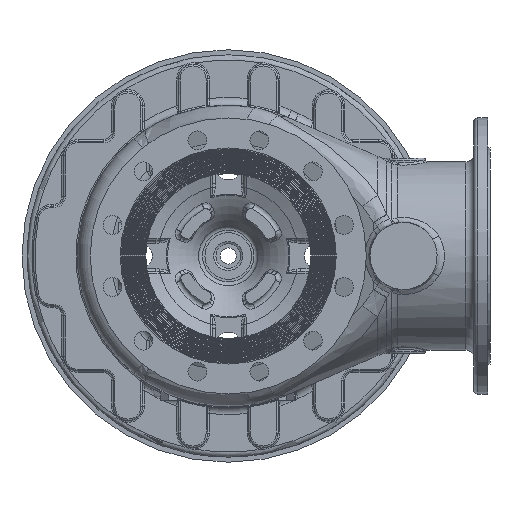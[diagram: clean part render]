
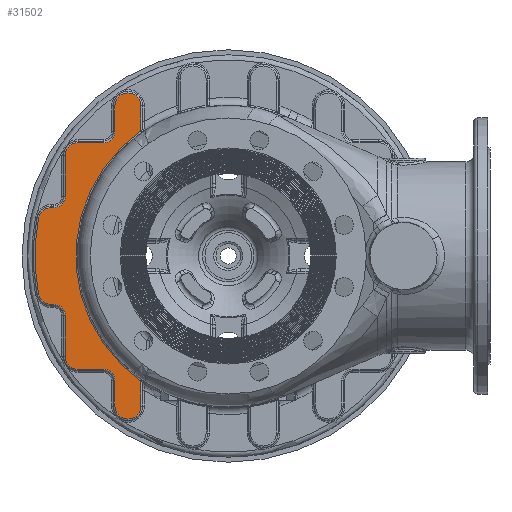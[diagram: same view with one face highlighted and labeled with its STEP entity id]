
A CAD part, front view. The second image highlights one B-rep face of the part: STEP entity #31502.
In plain terms, the highlighted planar face has unit normal (0, -1, 0).
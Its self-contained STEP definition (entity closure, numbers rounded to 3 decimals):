
#2589=PLANE('',#35256);
#6133=FACE_OUTER_BOUND('',#8074,.T.);
#8074=EDGE_LOOP('',(#28318,#28319,#28320,#28321,#28322,#28323,#28324,#28325,
#28326,#28327,#28328,#28329,#28330,#28331,#28332,#28333,#28334,#28335,#28336,
#28337,#28338,#28339));
#9179=LINE('',#78487,#10038);
#9181=LINE('',#78493,#10040);
#9182=LINE('',#78497,#10041);
#9183=LINE('',#78501,#10042);
#9184=LINE('',#78505,#10043);
#9185=LINE('',#78509,#10044);
#9186=LINE('',#78517,#10045);
#9187=LINE('',#78521,#10046);
#9188=LINE('',#78525,#10047);
#9189=LINE('',#78529,#10048);
#10038=VECTOR('',#43244,10.);
#10040=VECTOR('',#43250,10.);
#10041=VECTOR('',#43253,10.);
#10042=VECTOR('',#43256,10.);
#10043=VECTOR('',#43259,10.);
#10044=VECTOR('',#43262,10.);
#10045=VECTOR('',#43269,10.);
#10046=VECTOR('',#43272,10.);
#10047=VECTOR('',#43275,10.);
#10048=VECTOR('',#43278,10.);
#12108=CIRCLE('',#35160,187.674);
#12172=CIRCLE('',#35257,16.);
#12173=CIRCLE('',#35258,14.);
#12174=CIRCLE('',#35259,16.);
#12175=CIRCLE('',#35260,14.);
#12176=CIRCLE('',#35261,16.);
#12177=CIRCLE('',#35262,238.25);
#12178=CIRCLE('',#35263,16.);
#12179=CIRCLE('',#35264,14.);
#12180=CIRCLE('',#35265,16.);
#12181=CIRCLE('',#35266,14.);
#12182=CIRCLE('',#35267,16.);
#15178=VERTEX_POINT('',#78037);
#15179=VERTEX_POINT('',#78046);
#15230=VERTEX_POINT('',#78486);
#15232=VERTEX_POINT('',#78492);
#15233=VERTEX_POINT('',#78494);
#15234=VERTEX_POINT('',#78496);
#15235=VERTEX_POINT('',#78498);
#15236=VERTEX_POINT('',#78500);
#15237=VERTEX_POINT('',#78502);
#15238=VERTEX_POINT('',#78504);
#15239=VERTEX_POINT('',#78506);
#15240=VERTEX_POINT('',#78508);
#15241=VERTEX_POINT('',#78510);
#15242=VERTEX_POINT('',#78512);
#15243=VERTEX_POINT('',#78514);
#15244=VERTEX_POINT('',#78516);
#15245=VERTEX_POINT('',#78518);
#15246=VERTEX_POINT('',#78520);
#15247=VERTEX_POINT('',#78522);
#15248=VERTEX_POINT('',#78524);
#15249=VERTEX_POINT('',#78526);
#15250=VERTEX_POINT('',#78528);
#19593=EDGE_CURVE('',#15178,#15179,#12108,.T.);
#19684=EDGE_CURVE('',#15179,#15230,#9179,.T.);
#19687=EDGE_CURVE('',#15232,#15178,#9181,.T.);
#19688=EDGE_CURVE('',#15233,#15232,#12172,.T.);
#19689=EDGE_CURVE('',#15234,#15233,#9182,.T.);
#19690=EDGE_CURVE('',#15235,#15234,#12173,.T.);
#19691=EDGE_CURVE('',#15236,#15235,#9183,.T.);
#19692=EDGE_CURVE('',#15237,#15236,#12174,.T.);
#19693=EDGE_CURVE('',#15238,#15237,#9184,.T.);
#19694=EDGE_CURVE('',#15239,#15238,#12175,.T.);
#19695=EDGE_CURVE('',#15240,#15239,#9185,.T.);
#19696=EDGE_CURVE('',#15241,#15240,#12176,.T.);
#19697=EDGE_CURVE('',#15242,#15241,#12177,.T.);
#19698=EDGE_CURVE('',#15243,#15242,#12178,.T.);
#19699=EDGE_CURVE('',#15244,#15243,#9186,.T.);
#19700=EDGE_CURVE('',#15245,#15244,#12179,.T.);
#19701=EDGE_CURVE('',#15246,#15245,#9187,.T.);
#19702=EDGE_CURVE('',#15247,#15246,#12180,.T.);
#19703=EDGE_CURVE('',#15248,#15247,#9188,.T.);
#19704=EDGE_CURVE('',#15249,#15248,#12181,.T.);
#19705=EDGE_CURVE('',#15250,#15249,#9189,.T.);
#19706=EDGE_CURVE('',#15230,#15250,#12182,.T.);
#28318=ORIENTED_EDGE('',*,*,#19593,.F.);
#28319=ORIENTED_EDGE('',*,*,#19687,.F.);
#28320=ORIENTED_EDGE('',*,*,#19688,.F.);
#28321=ORIENTED_EDGE('',*,*,#19689,.F.);
#28322=ORIENTED_EDGE('',*,*,#19690,.F.);
#28323=ORIENTED_EDGE('',*,*,#19691,.F.);
#28324=ORIENTED_EDGE('',*,*,#19692,.F.);
#28325=ORIENTED_EDGE('',*,*,#19693,.F.);
#28326=ORIENTED_EDGE('',*,*,#19694,.F.);
#28327=ORIENTED_EDGE('',*,*,#19695,.F.);
#28328=ORIENTED_EDGE('',*,*,#19696,.F.);
#28329=ORIENTED_EDGE('',*,*,#19697,.F.);
#28330=ORIENTED_EDGE('',*,*,#19698,.F.);
#28331=ORIENTED_EDGE('',*,*,#19699,.F.);
#28332=ORIENTED_EDGE('',*,*,#19700,.F.);
#28333=ORIENTED_EDGE('',*,*,#19701,.F.);
#28334=ORIENTED_EDGE('',*,*,#19702,.F.);
#28335=ORIENTED_EDGE('',*,*,#19703,.F.);
#28336=ORIENTED_EDGE('',*,*,#19704,.F.);
#28337=ORIENTED_EDGE('',*,*,#19705,.F.);
#28338=ORIENTED_EDGE('',*,*,#19706,.F.);
#28339=ORIENTED_EDGE('',*,*,#19684,.F.);
#31502=ADVANCED_FACE('',(#6133),#2589,.T.);
#35160=AXIS2_PLACEMENT_3D('',#78048,#43035,#43036);
#35256=AXIS2_PLACEMENT_3D('',#78491,#43248,#43249);
#35257=AXIS2_PLACEMENT_3D('',#78495,#43251,#43252);
#35258=AXIS2_PLACEMENT_3D('',#78499,#43254,#43255);
#35259=AXIS2_PLACEMENT_3D('',#78503,#43257,#43258);
#35260=AXIS2_PLACEMENT_3D('',#78507,#43260,#43261);
#35261=AXIS2_PLACEMENT_3D('',#78511,#43263,#43264);
#35262=AXIS2_PLACEMENT_3D('',#78513,#43265,#43266);
#35263=AXIS2_PLACEMENT_3D('',#78515,#43267,#43268);
#35264=AXIS2_PLACEMENT_3D('',#78519,#43270,#43271);
#35265=AXIS2_PLACEMENT_3D('',#78523,#43273,#43274);
#35266=AXIS2_PLACEMENT_3D('',#78527,#43276,#43277);
#35267=AXIS2_PLACEMENT_3D('',#78530,#43279,#43280);
#43035=DIRECTION('center_axis',(0.,-1.,0.));
#43036=DIRECTION('ref_axis',(-1.,0.,0.));
#43244=DIRECTION('',(0.,0.,-1.));
#43248=DIRECTION('center_axis',(0.,-1.,0.));
#43249=DIRECTION('ref_axis',(0.,0.,-1.));
#43250=DIRECTION('',(0.,0.,-1.));
#43251=DIRECTION('center_axis',(0.,1.,0.));
#43252=DIRECTION('ref_axis',(0.,0.,1.));
#43253=DIRECTION('',(0.,0.,1.));
#43254=DIRECTION('center_axis',(0.,-1.,0.));
#43255=DIRECTION('ref_axis',(0.707,0.,-0.707));
#43256=DIRECTION('',(1.,0.,0.));
#43257=DIRECTION('center_axis',(0.,1.,0.));
#43258=DIRECTION('ref_axis',(-0.707,0.,0.707));
#43259=DIRECTION('',(0.,0.,1.));
#43260=DIRECTION('center_axis',(0.,-1.,0.));
#43261=DIRECTION('ref_axis',(0.707,0.,-0.707));
#43262=DIRECTION('',(1.,0.,0.));
#43263=DIRECTION('center_axis',(0.,1.,0.));
#43264=DIRECTION('ref_axis',(-0.634,0.,0.773));
#43265=DIRECTION('center_axis',(0.,1.,0.));
#43266=DIRECTION('ref_axis',(-1.,0.,0.));
#43267=DIRECTION('center_axis',(0.,1.,0.));
#43268=DIRECTION('ref_axis',(-0.634,0.,-0.773));
#43269=DIRECTION('',(-1.,0.,0.));
#43270=DIRECTION('center_axis',(0.,-1.,0.));
#43271=DIRECTION('ref_axis',(0.707,0.,0.707));
#43272=DIRECTION('',(0.,0.,1.));
#43273=DIRECTION('center_axis',(0.,1.,0.));
#43274=DIRECTION('ref_axis',(-0.707,0.,-0.707));
#43275=DIRECTION('',(-1.,0.,0.));
#43276=DIRECTION('center_axis',(0.,-1.,0.));
#43277=DIRECTION('ref_axis',(0.707,0.,0.707));
#43278=DIRECTION('',(0.,0.,1.));
#43279=DIRECTION('center_axis',(0.,1.,0.));
#43280=DIRECTION('ref_axis',(0.,0.,-1.));
#78037=CARTESIAN_POINT('',(-107.48,117.1,153.849));
#78046=CARTESIAN_POINT('',(-107.48,117.1,-153.849));
#78048=CARTESIAN_POINT('Origin',(0.,117.1,0.));
#78486=CARTESIAN_POINT('',(-107.48,117.1,-184.8));
#78487=CARTESIAN_POINT('',(-107.48,117.1,-92.4));
#78491=CARTESIAN_POINT('Origin',(-207.364,117.1,0.));
#78492=CARTESIAN_POINT('',(-107.48,117.1,184.8));
#78493=CARTESIAN_POINT('',(-107.48,117.1,92.4));
#78494=CARTESIAN_POINT('',(-139.48,117.1,184.8));
#78495=CARTESIAN_POINT('Origin',(-123.48,117.1,184.8));
#78496=CARTESIAN_POINT('',(-139.48,117.1,153.48));
#78497=CARTESIAN_POINT('',(-139.48,117.1,70.74));
#78498=CARTESIAN_POINT('',(-153.48,117.1,139.48));
#78499=CARTESIAN_POINT('Origin',(-153.48,117.1,153.48));
#78500=CARTESIAN_POINT('',(-184.8,117.1,139.48));
#78501=CARTESIAN_POINT('',(-196.082,117.1,139.48));
#78502=CARTESIAN_POINT('',(-200.8,117.1,123.48));
#78503=CARTESIAN_POINT('Origin',(-184.8,117.1,123.48));
#78504=CARTESIAN_POINT('',(-200.8,117.1,73.5));
#78505=CARTESIAN_POINT('',(-200.8,117.1,30.75));
#78506=CARTESIAN_POINT('',(-214.8,117.1,59.5));
#78507=CARTESIAN_POINT('Origin',(-214.8,117.1,73.5));
#78508=CARTESIAN_POINT('',(-217.951,117.1,59.5));
#78509=CARTESIAN_POINT('',(-190.921,117.1,59.5));
#78510=CARTESIAN_POINT('',(-233.642,117.1,46.632));
#78511=CARTESIAN_POINT('Origin',(-217.951,117.1,43.5));
#78512=CARTESIAN_POINT('',(-233.642,117.1,-46.632));
#78513=CARTESIAN_POINT('Origin',(0.,117.1,0.));
#78514=CARTESIAN_POINT('',(-217.951,117.1,-59.5));
#78515=CARTESIAN_POINT('Origin',(-217.951,117.1,-43.5));
#78516=CARTESIAN_POINT('',(-214.8,117.1,-59.5));
#78517=CARTESIAN_POINT('',(-219.805,117.1,-59.5));
#78518=CARTESIAN_POINT('',(-200.8,117.1,-73.5));
#78519=CARTESIAN_POINT('Origin',(-214.8,117.1,-73.5));
#78520=CARTESIAN_POINT('',(-200.8,117.1,-123.48));
#78521=CARTESIAN_POINT('',(-200.8,117.1,-30.75));
#78522=CARTESIAN_POINT('',(-184.8,117.1,-139.48));
#78523=CARTESIAN_POINT('Origin',(-184.8,117.1,-123.48));
#78524=CARTESIAN_POINT('',(-153.48,117.1,-139.48));
#78525=CARTESIAN_POINT('',(-196.082,117.1,-139.48));
#78526=CARTESIAN_POINT('',(-139.48,117.1,-153.48));
#78527=CARTESIAN_POINT('Origin',(-153.48,117.1,-153.48));
#78528=CARTESIAN_POINT('',(-139.48,117.1,-184.8));
#78529=CARTESIAN_POINT('',(-139.48,117.1,-70.74));
#78530=CARTESIAN_POINT('Origin',(-123.48,117.1,-184.8));
